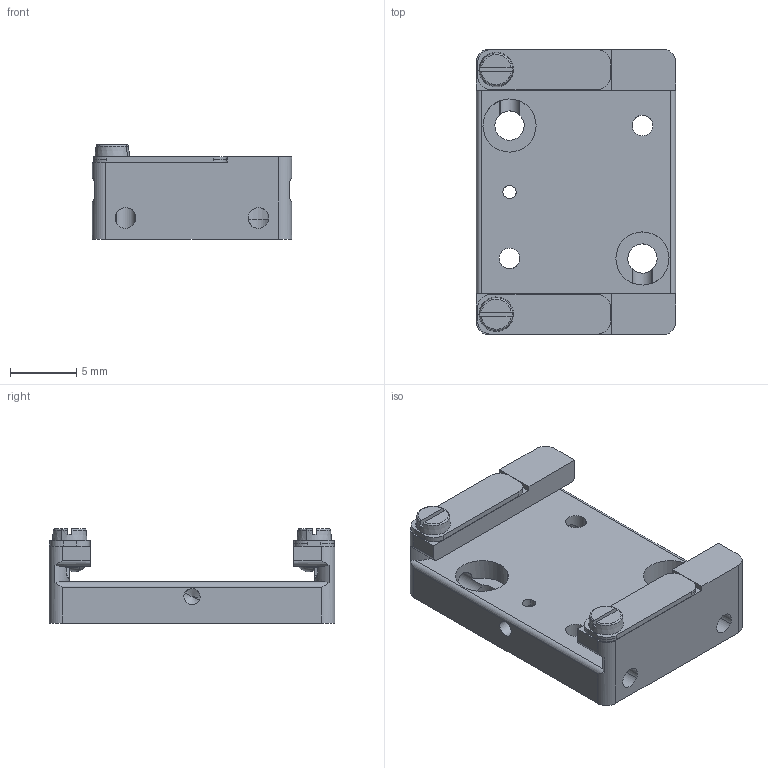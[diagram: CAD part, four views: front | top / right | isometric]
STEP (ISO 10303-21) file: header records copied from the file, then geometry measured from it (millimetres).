
FILE_DESCRIPTION(('Confidential','CAx-IF Rec.Pracs.--- Model Styling and Organization---1.2---2011-12-15','CAx-IF Rec.Pracs.--- Geometric and Assembly Validation Properties ---3.1---2011-10-19'),'2;1');
FILE_NAME('W:\KONSTRUKTION\PRODUCTS\REC\RECOM\RECOMLT\RECOMLT_Rev_E.stp','2025-12-22T12:54:42+00:00',('none'),('Ferrovac AG'),'CATIA Version 5 Release 21 SP 6 (IN-10)','CATIA V5 STEP AP214 Edition 3','PROPERTY OF FERROVAC AG');
FILE_SCHEMA(('AUTOMOTIVE_DESIGN { 1 0 10303 214 3 1 1 1 }'));
Length unit declared in the file: millimetre
Products named in the file (1): RECOMLT_Rev_E
Bounding box: 15 x 21.5 x 7.1 mm (x, y, z)
Volume: 1119.2 mm3; surface area: 1399.1 mm2
Topology: 1 solids, 3 shells, 161 faces, 456 edges, 294 vertices
Faces by surface type: cylinder 73, plane 52, cone 20, torus 12, sphere 4
Entity records: 5437 total; most frequent: CARTESIAN_POINT 1380, ORIENTED_EDGE 900, DIRECTION 591, EDGE_CURVE 450, VERTEX_POINT 294, AXIS2_PLACEMENT_3D 288, VECTOR 195, LINE 195
